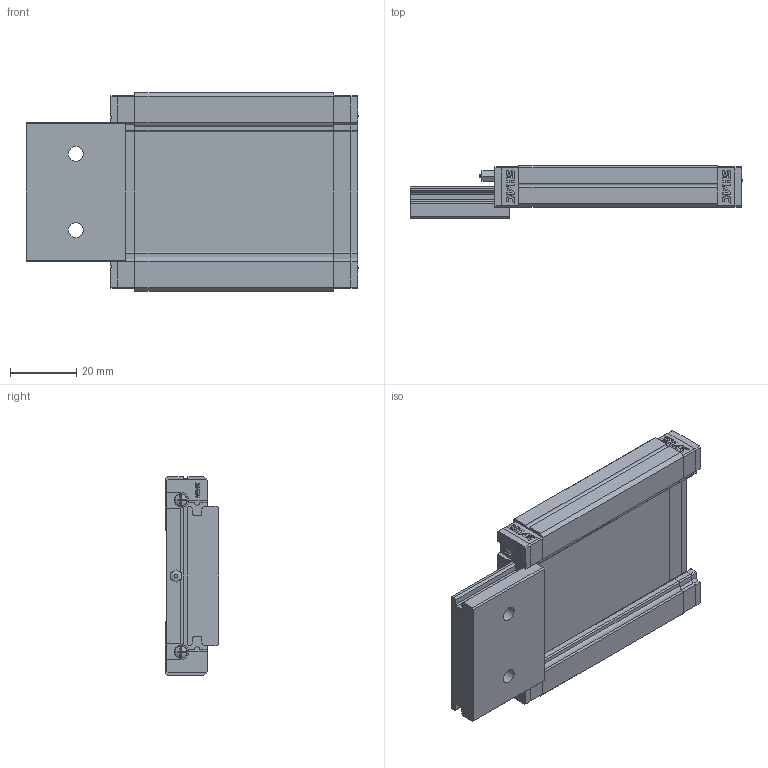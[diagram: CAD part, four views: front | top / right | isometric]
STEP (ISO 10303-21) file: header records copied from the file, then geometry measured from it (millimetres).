
FILE_DESCRIPTION( ( 'STEP AP214' ), '1' );
FILE_NAME( 'F:/品牌/SHAC 台湾鼎翰传动科技有限公司/3D滑块/GMW15H1R30ZFC+U_-15_15_1_.stp', '2025-04-21T22:56:02', ( 'License CC BY-ND 4.0' ), ( 'CADENAS' ), ' ', 'PARTsolutions', ' ' );
FILE_SCHEMA( ( 'AUTOMOTIVE_DESIGN { 1 0 10303 214 1 1 1 1 }' ) );
Length unit declared in the file: millimetre
Products named in the file (6): GMW15H1R30ZFC+U/-15/15(1); _GMW15R30-15/15(1)_R; _GMW15H_S; _GMW15_C; _GMW15_P; _GMN15_N
Assembly tree (7 placements, depth 2):
  GMW15H1R30ZFC+U/-15/15(1)
    _GMW15R30-15/15(1)_R
    _GMW15H_S
    _GMW15_C  x2
    _GMW15_P  x2
    _GMN15_N
Bounding box: 100.12 x 16 x 60 mm (x, y, z)
Volume: 47934.5 mm3; surface area: 21795.7 mm2
Topology: 7 solids, 7 shells, 617 faces, 1700 edges, 1127 vertices
Faces by surface type: plane 491, cylinder 108, cone 9, torus 5, sphere 4
Full cylindrical faces by diameter (mm): 1.05 x1, 2.459 x2, 3.242 x4, 3.84 x4, 4.5 x2, 8 x2
Entity records: 13955 total; most frequent: CARTESIAN_POINT 1966, ORIENTED_EDGE 1876, DIRECTION 1829, EDGE_CURVE 938, LINE 761, VECTOR 761, VERTEX_POINT 639, AXIS2_PLACEMENT_3D 534
